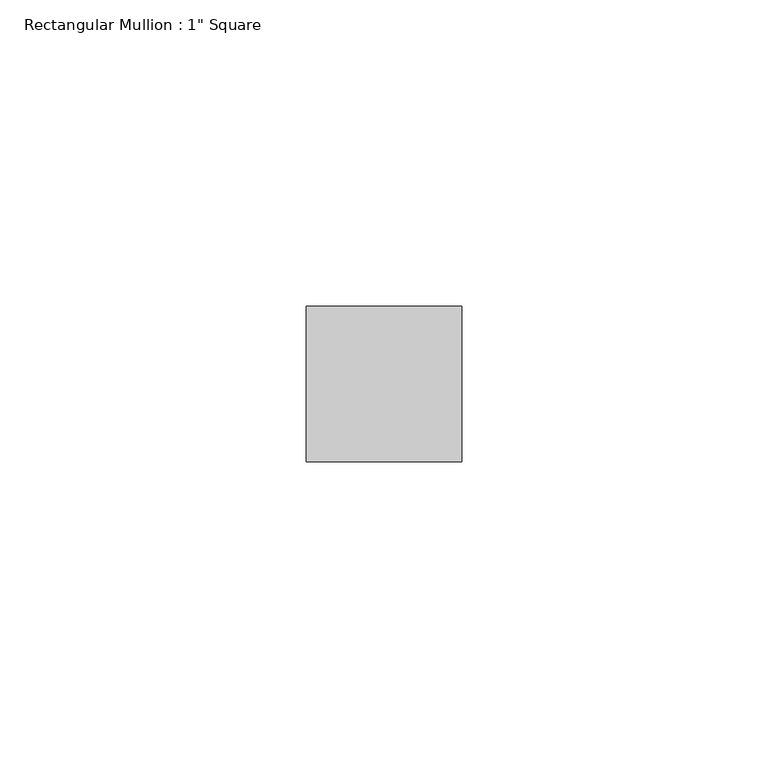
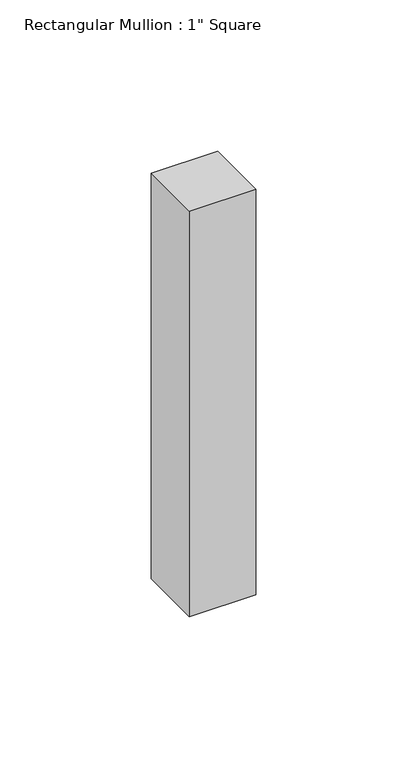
"""IFC4 building model written with IfcOpenShell, lengths in millimetres: member geometry."""

from ifc_helpers import new_model, si_unit, frame, origin, place, context, project, spatial, polyline, outline, extrude, source, transform, mapped, element, save


def member_9f5a8508(model_context):
    return source(origin(), model_context, "Body", "SweptSolid", [
        extrude(outline(polyline([(0.0, 12.7), (0.0, -12.7), (-25.4, -12.7), (-25.4, 12.7), (0.0, 12.7)])), frame((0.0, 0.0, -163.9356999), z_axis=(0.0, 0.0, 1.0), x_axis=(1.0, 0.0, 0.0)), (0.0, 0.0, 1.0), 163.9356999),
    ])


if __name__ == "__main__":
    model = new_model("IFC4")
    model_context = context("Model", 3, world=origin())
    ifc_project = project(units=[si_unit("LENGTHUNIT", "METRE", prefix="MILLI")], contexts=[model_context])
    site = spatial("IfcSite", under=ifc_project)
    building = spatial("IfcBuilding", under=site)
    placement = place(None, origin())
    member_shape = member_9f5a8508(model_context)
    element("IfcMember", 1, ObjectType="Rectangular Mullion : 1\" Square", at=placement, inside=building, context=model_context, shape_type="MappedRepresentation", body=[
        mapped(member_shape, transform((0.0, 0.0, 0.0), x_axis=(1.0, 0.0, 0.0), y_axis=(0.0, 1.0, 0.0), z_axis=(0.0, 0.0, 1.0))),
    ])
    save(model, "model.ifc")
